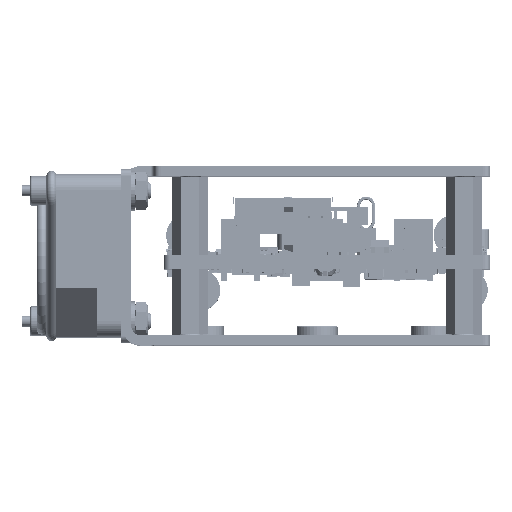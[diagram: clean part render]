
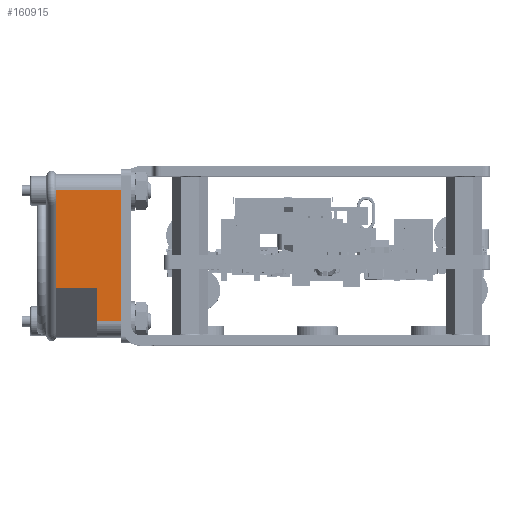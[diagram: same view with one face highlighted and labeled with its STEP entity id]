
A CAD part, top view. The second image highlights one B-rep face of the part: STEP entity #160915.
In plain terms, the highlighted planar face has unit normal (0, 0, 1) as drawn and (1, 0, 0) by its records, which use the part's own axes.
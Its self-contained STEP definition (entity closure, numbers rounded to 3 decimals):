
#7084 = LINE ( 'NONE', #286772, #50492 ) ;
#16812 = DIRECTION ( 'NONE',  ( -1., 0., 0. ) ) ;
#20356 = EDGE_CURVE ( 'NONE', #81281, #299751, #321812, .T. ) ;
#20434 = CARTESIAN_POINT ( 'NONE',  ( 12.5, -5., 10. ) ) ;
#25599 = CARTESIAN_POINT ( 'NONE',  ( 12.5, 10., 10. ) ) ;
#27558 = LINE ( 'NONE', #140910, #134224 ) ;
#36397 = FACE_OUTER_BOUND ( 'NONE', #219776, .T. ) ;
#36990 = LINE ( 'NONE', #316750, #88275 ) ;
#42252 = DIRECTION ( 'NONE',  ( 0., 0., 1. ) ) ;
#50492 = VECTOR ( 'NONE', #183988, 1000. ) ;
#62460 = ORIENTED_EDGE ( 'NONE', *, *, #208590, .F. ) ;
#78525 = CARTESIAN_POINT ( 'NONE',  ( 12.5, -10., 3.75 ) ) ;
#81281 = VERTEX_POINT ( 'NONE', #323513 ) ;
#88275 = VECTOR ( 'NONE', #138734, 1000. ) ;
#102758 = DIRECTION ( 'NONE',  ( 0., 0., -1. ) ) ;
#112223 = VECTOR ( 'NONE', #102758, 1000. ) ;
#116131 = CARTESIAN_POINT ( 'NONE',  ( 12.5, -5., 3.75 ) ) ;
#127008 = DIRECTION ( 'NONE',  ( 0., 0., -1. ) ) ;
#127376 = ORIENTED_EDGE ( 'NONE', *, *, #301801, .F. ) ;
#130291 = CARTESIAN_POINT ( 'NONE',  ( 12.5, -10., 10. ) ) ;
#134224 = VECTOR ( 'NONE', #190677, 1000. ) ;
#138734 = DIRECTION ( 'NONE',  ( 0., 1., 0. ) ) ;
#140910 = CARTESIAN_POINT ( 'NONE',  ( 12.5, -10., 3.75 ) ) ;
#159239 = EDGE_CURVE ( 'NONE', #275759, #299751, #36990, .T. ) ;
#160915 = ADVANCED_FACE ( 'NONE', ( #36397 ), #216812, .F. ) ;
#166779 = EDGE_CURVE ( 'NONE', #217430, #275759, #306030, .T. ) ;
#170304 = ORIENTED_EDGE ( 'NONE', *, *, #166779, .T. ) ;
#183601 = CARTESIAN_POINT ( 'NONE',  ( 12.5, -10., 0. ) ) ;
#183988 = DIRECTION ( 'NONE',  ( 0., 0., 1. ) ) ;
#190677 = DIRECTION ( 'NONE',  ( 0., 1., 0. ) ) ;
#196283 = ORIENTED_EDGE ( 'NONE', *, *, #159239, .T. ) ;
#208590 = EDGE_CURVE ( 'NONE', #217430, #318825, #27558, .T. ) ;
#216812 = PLANE ( 'NONE',  #288502 ) ;
#217430 = VERTEX_POINT ( 'NONE', #78525 ) ;
#219776 = EDGE_LOOP ( 'NONE', ( #290223, #127376, #62460, #170304, #196283, #289871 ) ) ;
#229522 = DIRECTION ( 'NONE',  ( 0., 1., 0. ) ) ;
#251031 = EDGE_CURVE ( 'NONE', #296149, #81281, #281395, .T. ) ;
#275759 = VERTEX_POINT ( 'NONE', #183601 ) ;
#281395 = LINE ( 'NONE', #304624, #313162 ) ;
#286772 = CARTESIAN_POINT ( 'NONE',  ( 12.5, -5., 3.75 ) ) ;
#288502 = AXIS2_PLACEMENT_3D ( 'NONE', #318475, #16812, #42252 ) ;
#289871 = ORIENTED_EDGE ( 'NONE', *, *, #20356, .F. ) ;
#290223 = ORIENTED_EDGE ( 'NONE', *, *, #251031, .F. ) ;
#296149 = VERTEX_POINT ( 'NONE', #20434 ) ;
#299751 = VERTEX_POINT ( 'NONE', #318456 ) ;
#301801 = EDGE_CURVE ( 'NONE', #318825, #296149, #7084, .T. ) ;
#304624 = CARTESIAN_POINT ( 'NONE',  ( 12.5, 10., 10. ) ) ;
#306030 = LINE ( 'NONE', #130291, #112223 ) ;
#313162 = VECTOR ( 'NONE', #229522, 1000. ) ;
#313902 = VECTOR ( 'NONE', #127008, 1000. ) ;
#316750 = CARTESIAN_POINT ( 'NONE',  ( 12.5, 10., 0. ) ) ;
#318456 = CARTESIAN_POINT ( 'NONE',  ( 12.5, 10., 0. ) ) ;
#318475 = CARTESIAN_POINT ( 'NONE',  ( 12.5, 10., 10. ) ) ;
#318825 = VERTEX_POINT ( 'NONE', #116131 ) ;
#321812 = LINE ( 'NONE', #25599, #313902 ) ;
#323513 = CARTESIAN_POINT ( 'NONE',  ( 12.5, 10., 10. ) ) ;
